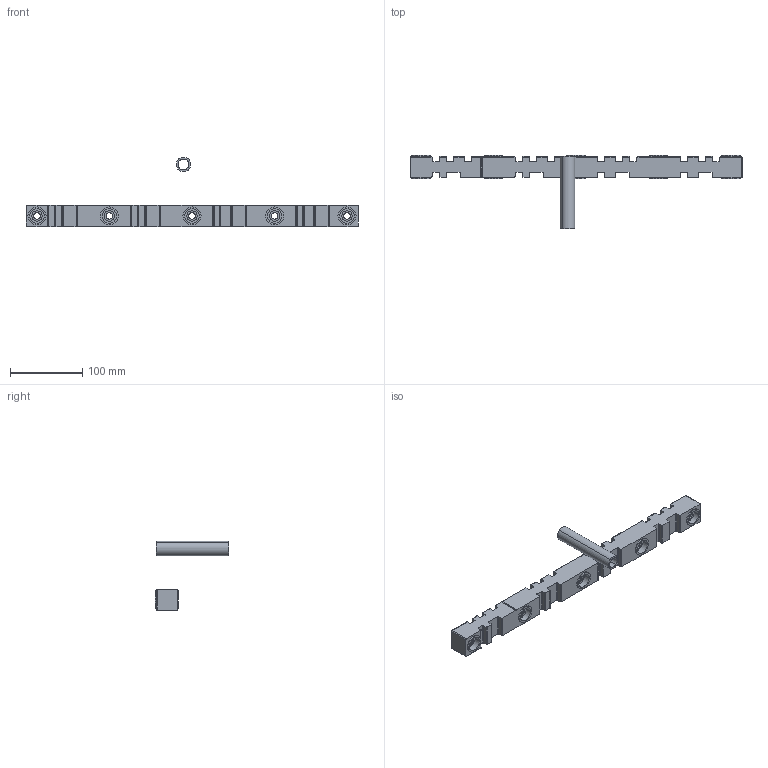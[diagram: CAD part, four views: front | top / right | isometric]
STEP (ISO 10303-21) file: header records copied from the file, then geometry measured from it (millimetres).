
FILE_DESCRIPTION (( 'STEP AP214' ), '1' );
FILE_NAME ('04678.STEP', '2017-11-20T08:17:37', ( '' ), ( '' ), 'SwSTEP 2.0', 'SolidWorks 2015', '' );
FILE_SCHEMA (( 'AUTOMOTIVE_DESIGN' ));
Length unit declared in the file: millimetre
Products named in the file (3): 04678; 04678-1
Assembly tree (2 placements, depth 2):
  04678
    04678
    04678-1
Bounding box: 460 x 101.5 x 96.32 mm (x, y, z)
Volume: 336678.4 mm3; surface area: 79396.4 mm2
Topology: 2 solids, 2 shells, 315 faces, 787 edges, 502 vertices
Faces by surface type: cylinder 189, plane 122, sphere 4
Entity records: 9517 total; most frequent: CARTESIAN_POINT 1785, DIRECTION 1649, ORIENTED_EDGE 1566, EDGE_CURVE 783, AXIS2_PLACEMENT_3D 598, VERTEX_POINT 502, LINE 453, VECTOR 453
